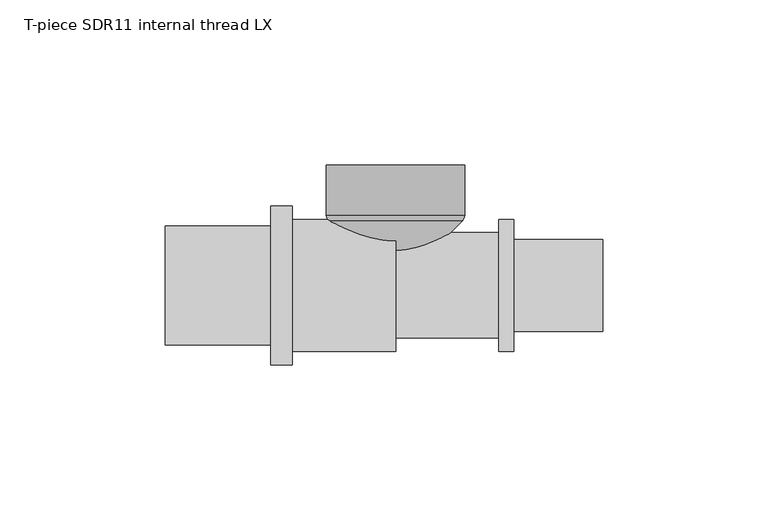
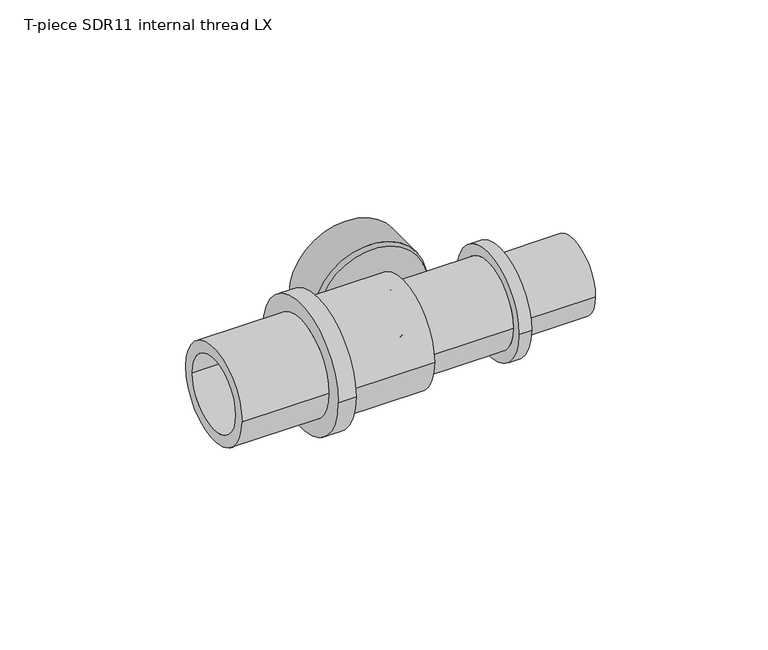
"""IFC4 building model written with IfcOpenShell, lengths in millimetres: pipe fitting geometry, T-piece SDR11 internal thread LX : T-piece LX SDR11 internal LX."""

from ifc_helpers import new_model, si_unit, point, frame, origin, place, context, project, spatial, polyline, circle_curve, ellipse_curve, trimmed, source, transform, mapped, element, save
from ifc_brep_helpers import plane_surface, cylinder_surface, revolved_surface, advanced_brep


def t_piece_sdr11_internal_thread_lx_1500bb06(model_context):
    return source(origin(), model_context, "Body", "AdvancedBrep", [
        advanced_brep(
        [(15.75, 22.35, 0.0), (-15.75, 22.35, 0.0), (-15.75, 36.5, 0.0), (15.75, 36.5, 0.0), (0.5, 7.1, 0.0), (-0.5, 7.1, 0.0), (20.2683856, 19.4437644, 0.0), (-20.2683856, 19.4437644, 0.0), (-7.9246212, 7.1, 0.0), (7.9246212, 7.1, 0.0), (21.0, 21.2100378, 0.0), (-21.0, 21.2100378, 0.0), (21.0, 36.5, 0.0), (-21.0, 36.5, 0.0)],
        [
            (0, 1, circle_curve(frame((0.0, 22.35, 0.0), z_axis=(0.0, -1.0, 0.0), x_axis=(-1.0, 0.0, 0.0)), 15.75)),
            (1, 2),
            (2, 3, circle_curve(frame((0.0, 36.5, 0.0), z_axis=(0.0, 1.0, 0.0), x_axis=(-1.0, 0.0, 0.0)), 15.75)),
            (3, 0),
            (4, 5, circle_curve(frame((0.0, 7.1, 0.0), z_axis=(0.0, -1.0, 0.0), x_axis=(-1.0, 0.0, 0.0)), 0.5)),
            (5, 1),
            (0, 4),
            (6, 7, circle_curve(frame((0.0, 19.4437644, 0.0), z_axis=(0.0, -1.0, 0.0), x_axis=(-1.0, 0.0, 0.0)), 20.2683856)),
            (7, 8),
            (8, 9, circle_curve(frame((0.0, 7.1, 0.0), z_axis=(0.0, 1.0, 0.0), x_axis=(-1.0, 0.0, 0.0)), 7.9246212)),
            (9, 6),
            (10, 11, circle_curve(frame((0.0, 21.2100378, 0.0), z_axis=(0.0, -1.0, 0.0), x_axis=(-1.0, 0.0, 0.0)), 21.0)),
            (11, 7, circle_curve(frame((-15.75, 22.35, 0.0), z_axis=(0.0, 0.0, 1.0), x_axis=(0.0, 1.0, 0.0)), 5.3723378)),
            (6, 10, circle_curve(frame((15.75, 22.35, 0.0), z_axis=(0.0, 0.0, 1.0), x_axis=(0.0, 1.0, 0.0)), 5.3723378)),
            (12, 13, circle_curve(frame((0.0, 36.5, 0.0), z_axis=(0.0, -1.0, 0.0), x_axis=(-1.0, 0.0, 0.0)), 21.0)),
            (13, 11),
            (10, 12),
            (12, 13, circle_curve(frame((0.0, 36.5, 0.0), z_axis=(0.0, 1.0, 0.0), x_axis=(1.0, 0.0, 0.0)), 21.0)),
            (2, 3, circle_curve(frame((0.0, 36.5, 0.0), z_axis=(0.0, -1.0, 0.0), x_axis=(1.0, 0.0, 0.0)), 15.75)),
            (1, 0, circle_curve(frame((0.0, 22.35, 0.0), z_axis=(0.0, -1.0, 0.0), x_axis=(1.0, 0.0, 0.0)), 15.75)),
            (5, 4, circle_curve(frame((0.0, 7.1, 0.0), z_axis=(0.0, -1.0, 0.0), x_axis=(1.0, 0.0, 0.0)), 0.5)),
            (8, 9, circle_curve(frame((0.0, 7.1, 0.0), z_axis=(0.0, -1.0, 0.0), x_axis=(1.0, 0.0, 0.0)), 7.9246212)),
            (7, 6, circle_curve(frame((0.0, 19.4437644, 0.0), z_axis=(0.0, -1.0, 0.0), x_axis=(1.0, 0.0, 0.0)), 20.2683856)),
            (11, 10, circle_curve(frame((0.0, 21.2100378, 0.0), z_axis=(0.0, -1.0, 0.0), x_axis=(1.0, 0.0, 0.0)), 21.0)),
        ],
        [
            revolved_surface(polyline([(-15.75, 36.5, 0.0), (-15.75, 22.35, 0.0)]), (0.0, 7.1, 0.0), (0.0, 1.0, 0.0)),
            revolved_surface(polyline([(-15.75, 22.35, 0.0), (-0.5, 7.1, 0.0)]), (0.0, 7.1, 0.0), (0.0, 1.0, 0.0)),
            revolved_surface(polyline([(-7.9246212, 7.1, 0.0), (-20.2683856, 19.4437644, 0.0)]), (0.0, 7.1, 0.0), (0.0, 1.0, 0.0)),
            revolved_surface(trimmed(ellipse_curve(frame((-15.75, 22.35, 0.0), z_axis=(0.0, 0.0, -1.0), x_axis=(0.0, 1.0, 0.0)), 5.3723378, 5.3723378), [point((-20.2683856, 19.4437644, 0.0))], [point((-21.0, 21.2100378, 0.0))], True, "CARTESIAN"), (0.0, 7.1, 0.0), (0.0, 1.0, 0.0)),
            cylinder_surface(frame((0.0, 7.1, 0.0), z_axis=(0.0, 1.0, 0.0), x_axis=(-1.0, 0.0, 0.0)), 21.0),
            plane_surface(frame((0.0, 36.5, 0.0), z_axis=(0.0, 1.0, 0.0), x_axis=(1.0, 0.0, 0.0))),
            revolved_surface(polyline([(15.75, 36.5, 0.0), (15.75, 22.35, 0.0)]), (0.0, 7.1, 0.0), (0.0, 1.0, 0.0)),
            revolved_surface(polyline([(15.75, 22.35, 0.0), (0.5, 7.1, 0.0)]), (0.0, 7.1, 0.0), (0.0, 1.0, 0.0)),
            plane_surface(frame((0.0, 7.1, 0.0), z_axis=(0.0, -1.0, 0.0), x_axis=(1.0, 0.0, 0.0))),
            revolved_surface(polyline([(7.9246212, 7.1, 0.0), (20.2683856, 19.4437644, 0.0)]), (0.0, 7.1, 0.0), (0.0, 1.0, 0.0)),
            revolved_surface(trimmed(ellipse_curve(frame((15.75, 22.35, 0.0), z_axis=(0.0, 0.0, 1.0), x_axis=(0.0, 1.0, 0.0)), 5.3723378, 5.3723378), [point((20.2683856, 19.4437644, 0.0))], [point((21.0, 21.2100378, 0.0))], True, "CARTESIAN"), (0.0, 7.1, 0.0), (0.0, 1.0, 0.0)),
            cylinder_surface(frame((0.0, 7.1, 0.0), z_axis=(0.0, 1.0, 0.0), x_axis=(1.0, 0.0, 0.0)), 21.0),
        ],
        [
            (0, [[1, 2, 3, 4]]),
            (1, [[5, 6, -1, 7]]),
            (2, [[8, 9, 10, 11]]),
            (3, [[12, 13, -8, 14]]),
            (4, [[15, 16, -12, 17]]),
            (5, [[18, -15], [19, -3]]),
            (6, [[20, -4, -19, -2]]),
            (7, [[21, -7, -20, -6]]),
            (8, [[22, -10], [-21, -5]]),
            (9, [[23, -11, -22, -9]]),
            (10, [[24, -14, -23, -13]]),
            (11, [[-18, -17, -24, -16]]),
        ],
    ),
        advanced_brep(
        [(35.8, 20.0, 0.0), (35.8, -20.0, 0.0), (31.3, -20.0, 0.0), (31.3, 20.0, 0.0), (62.8, 13.95, 0.0), (62.8, -13.95, 0.0), (35.8, -13.95, 0.0), (35.8, 13.95, 0.0), (0.0, 11.2, 0.0), (0.0, -11.2, 0.0), (62.8, -11.2, 0.0), (62.8, 11.2, 0.0), (31.3, 16.0, 0.0), (31.3, -16.0, 0.0), (0.0, -16.0, 0.0), (0.0, 16.0, 0.0)],
        [
            (0, 1, circle_curve(frame((35.8, 0.0, 0.0), z_axis=(-1.0, 0.0, 0.0), x_axis=(0.0, -1.0, 0.0)), 20.0)),
            (1, 2),
            (2, 3, circle_curve(frame((31.3, 0.0, 0.0), z_axis=(1.0, 0.0, 0.0), x_axis=(0.0, -1.0, 0.0)), 20.0)),
            (3, 0),
            (4, 5, circle_curve(frame((62.8, 0.0, 0.0), z_axis=(-1.0, 0.0, 0.0), x_axis=(0.0, -1.0, 0.0)), 13.95)),
            (5, 6),
            (6, 7, circle_curve(frame((35.8, 0.0, 0.0), z_axis=(1.0, 0.0, 0.0), x_axis=(0.0, -1.0, 0.0)), 13.95)),
            (7, 4),
            (8, 9, circle_curve(frame((0.0, 0.0, 0.0), z_axis=(-1.0, 0.0, 0.0), x_axis=(0.0, -1.0, 0.0)), 11.2)),
            (9, 10),
            (10, 11, circle_curve(frame((62.8, 0.0, 0.0), z_axis=(1.0, 0.0, 0.0), x_axis=(0.0, -1.0, 0.0)), 11.2)),
            (11, 8),
            (12, 13, circle_curve(frame((31.3, 0.0, 0.0), z_axis=(-1.0, 0.0, 0.0), x_axis=(0.0, -1.0, 0.0)), 16.0)),
            (13, 14),
            (14, 15, circle_curve(frame((0.0, 0.0, 0.0), z_axis=(1.0, 0.0, 0.0), x_axis=(0.0, -1.0, 0.0)), 16.0)),
            (15, 12),
            (1, 0, circle_curve(frame((35.8, 0.0, 0.0), z_axis=(-1.0, 0.0, 0.0), x_axis=(0.0, 1.0, 0.0)), 20.0)),
            (3, 2, circle_curve(frame((31.3, 0.0, 0.0), z_axis=(1.0, 0.0, 0.0), x_axis=(0.0, 1.0, 0.0)), 20.0)),
            (6, 7, circle_curve(frame((35.8, 0.0, 0.0), z_axis=(-1.0, 0.0, 0.0), x_axis=(0.0, 1.0, 0.0)), 13.95)),
            (5, 4, circle_curve(frame((62.8, 0.0, 0.0), z_axis=(-1.0, 0.0, 0.0), x_axis=(0.0, 1.0, 0.0)), 13.95)),
            (10, 11, circle_curve(frame((62.8, 0.0, 0.0), z_axis=(-1.0, 0.0, 0.0), x_axis=(0.0, 1.0, 0.0)), 11.2)),
            (9, 8, circle_curve(frame((0.0, 0.0, 0.0), z_axis=(-1.0, 0.0, 0.0), x_axis=(0.0, 1.0, 0.0)), 11.2)),
            (14, 15, circle_curve(frame((0.0, 0.0, 0.0), z_axis=(-1.0, 0.0, 0.0), x_axis=(0.0, 1.0, 0.0)), 16.0)),
            (13, 12, circle_curve(frame((31.3, 0.0, 0.0), z_axis=(-1.0, 0.0, 0.0), x_axis=(0.0, 1.0, 0.0)), 16.0)),
        ],
        [
            cylinder_surface(frame((0.0, 0.0, 0.0), z_axis=(1.0, 0.0, 0.0), x_axis=(0.0, -1.0, 0.0)), 20.0),
            cylinder_surface(frame((0.0, 0.0, 0.0), z_axis=(1.0, 0.0, 0.0), x_axis=(0.0, -1.0, 0.0)), 13.95),
            revolved_surface(polyline([(62.8, -11.2, 0.0), (0.0, -11.2, 0.0)]), (0.0, 0.0, 0.0), (1.0, 0.0, 0.0)),
            cylinder_surface(frame((0.0, 0.0, 0.0), z_axis=(1.0, 0.0, 0.0), x_axis=(0.0, -1.0, 0.0)), 16.0),
            cylinder_surface(frame((0.0, 0.0, 0.0), z_axis=(1.0, 0.0, 0.0), x_axis=(0.0, 1.0, 0.0)), 20.0),
            plane_surface(frame((35.8, 0.0, 0.0), z_axis=(1.0, 0.0, 0.0), x_axis=(0.0, 1.0, 0.0))),
            cylinder_surface(frame((0.0, 0.0, 0.0), z_axis=(1.0, 0.0, 0.0), x_axis=(0.0, 1.0, 0.0)), 13.95),
            plane_surface(frame((62.8, 0.0, 0.0), z_axis=(1.0, 0.0, 0.0), x_axis=(0.0, 1.0, 0.0))),
            revolved_surface(polyline([(62.8, 11.2, 0.0), (0.0, 11.2, 0.0)]), (0.0, 0.0, 0.0), (1.0, 0.0, 0.0)),
            plane_surface(frame((0.0, 0.0, 0.0), z_axis=(-1.0, 0.0, 0.0), x_axis=(0.0, 1.0, 0.0))),
            cylinder_surface(frame((0.0, 0.0, 0.0), z_axis=(1.0, 0.0, 0.0), x_axis=(0.0, 1.0, 0.0)), 16.0),
            plane_surface(frame((31.3, 0.0, 0.0), z_axis=(-1.0, 0.0, 0.0), x_axis=(0.0, 1.0, 0.0))),
        ],
        [
            (0, [[1, 2, 3, 4]]),
            (1, [[5, 6, 7, 8]]),
            (2, [[9, 10, 11, 12]]),
            (3, [[13, 14, 15, 16]]),
            (4, [[17, -4, 18, -2]]),
            (5, [[-17, -1], [19, -7]]),
            (6, [[20, -8, -19, -6]]),
            (7, [[-20, -5], [21, -11]]),
            (8, [[22, -12, -21, -10]]),
            (9, [[23, -15], [-22, -9]]),
            (10, [[24, -16, -23, -14]]),
            (11, [[-18, -3], [-24, -13]]),
        ],
    ),
        advanced_brep(
        [(0.0, 20.0, 0.0), (0.0, -20.0, 0.0), (-31.3, -20.0, 0.0), (-31.3, 20.0, 0.0), (-69.8, 13.75, 0.0), (-69.8, -13.75, 0.0), (0.0, -13.75, 0.0), (0.0, 13.75, 0.0), (-37.8, 18.0, 0.0), (-37.8, -18.0, 0.0), (-69.8, -18.0, 0.0), (-69.8, 18.0, 0.0), (-31.3, 24.1, 0.0), (-31.3, -24.1, 0.0), (-37.8, -24.1, 0.0), (-37.8, 24.1, 0.0)],
        [
            (0, 1, circle_curve(frame((0.0, 0.0, 0.0), z_axis=(-1.0, 0.0, 0.0), x_axis=(0.0, -1.0, 0.0)), 20.0)),
            (1, 2),
            (2, 3, circle_curve(frame((-31.3, 0.0, 0.0), z_axis=(1.0, 0.0, 0.0), x_axis=(0.0, -1.0, 0.0)), 20.0)),
            (3, 0),
            (4, 5, circle_curve(frame((-69.8, 0.0, 0.0), z_axis=(-1.0, 0.0, 0.0), x_axis=(0.0, -1.0, 0.0)), 13.75)),
            (5, 6),
            (6, 7, circle_curve(frame((0.0, 0.0, 0.0), z_axis=(1.0, 0.0, 0.0), x_axis=(0.0, -1.0, 0.0)), 13.75)),
            (7, 4),
            (8, 9, circle_curve(frame((-37.8, 0.0, 0.0), z_axis=(-1.0, 0.0, 0.0), x_axis=(0.0, -1.0, 0.0)), 18.0)),
            (9, 10),
            (10, 11, circle_curve(frame((-69.8, 0.0, 0.0), z_axis=(1.0, 0.0, 0.0), x_axis=(0.0, -1.0, 0.0)), 18.0)),
            (11, 8),
            (12, 13, circle_curve(frame((-31.3, 0.0, 0.0), z_axis=(-1.0, 0.0, 0.0), x_axis=(0.0, -1.0, 0.0)), 24.1)),
            (13, 14),
            (14, 15, circle_curve(frame((-37.8, 0.0, 0.0), z_axis=(1.0, 0.0, 0.0), x_axis=(0.0, -1.0, 0.0)), 24.1)),
            (15, 12),
            (12, 13, circle_curve(frame((-31.3, 0.0, 0.0), z_axis=(1.0, 0.0, 0.0), x_axis=(0.0, 1.0, 0.0)), 24.1)),
            (2, 3, circle_curve(frame((-31.3, 0.0, 0.0), z_axis=(-1.0, 0.0, 0.0), x_axis=(0.0, 1.0, 0.0)), 20.0)),
            (1, 0, circle_curve(frame((0.0, 0.0, 0.0), z_axis=(-1.0, 0.0, 0.0), x_axis=(0.0, 1.0, 0.0)), 20.0)),
            (6, 7, circle_curve(frame((0.0, 0.0, 0.0), z_axis=(-1.0, 0.0, 0.0), x_axis=(0.0, 1.0, 0.0)), 13.75)),
            (5, 4, circle_curve(frame((-69.8, 0.0, 0.0), z_axis=(-1.0, 0.0, 0.0), x_axis=(0.0, 1.0, 0.0)), 13.75)),
            (10, 11, circle_curve(frame((-69.8, 0.0, 0.0), z_axis=(-1.0, 0.0, 0.0), x_axis=(0.0, 1.0, 0.0)), 18.0)),
            (9, 8, circle_curve(frame((-37.8, 0.0, 0.0), z_axis=(-1.0, 0.0, 0.0), x_axis=(0.0, 1.0, 0.0)), 18.0)),
            (14, 15, circle_curve(frame((-37.8, 0.0, 0.0), z_axis=(-1.0, 0.0, 0.0), x_axis=(0.0, 1.0, 0.0)), 24.1)),
        ],
        [
            cylinder_surface(frame((0.0, 0.0, 0.0), z_axis=(1.0, 0.0, 0.0), x_axis=(0.0, -1.0, 0.0)), 20.0),
            revolved_surface(polyline([(0.0, -13.75, 0.0), (-69.8, -13.75, 0.0)]), (0.0, 0.0, 0.0), (1.0, 0.0, 0.0)),
            cylinder_surface(frame((0.0, 0.0, 0.0), z_axis=(1.0, 0.0, 0.0), x_axis=(0.0, -1.0, 0.0)), 18.0),
            cylinder_surface(frame((0.0, 0.0, 0.0), z_axis=(1.0, 0.0, 0.0), x_axis=(0.0, -1.0, 0.0)), 24.1),
            plane_surface(frame((-31.3, 0.0, 0.0), z_axis=(1.0, 0.0, 0.0), x_axis=(0.0, 1.0, 0.0))),
            cylinder_surface(frame((0.0, 0.0, 0.0), z_axis=(1.0, 0.0, 0.0), x_axis=(0.0, 1.0, 0.0)), 20.0),
            plane_surface(frame((0.0, 0.0, 0.0), z_axis=(1.0, 0.0, 0.0), x_axis=(0.0, 1.0, 0.0))),
            revolved_surface(polyline([(0.0, 13.75, 0.0), (-69.8, 13.75, 0.0)]), (0.0, 0.0, 0.0), (1.0, 0.0, 0.0)),
            plane_surface(frame((-69.8, 0.0, 0.0), z_axis=(-1.0, 0.0, 0.0), x_axis=(0.0, 1.0, 0.0))),
            cylinder_surface(frame((0.0, 0.0, 0.0), z_axis=(1.0, 0.0, 0.0), x_axis=(0.0, 1.0, 0.0)), 18.0),
            plane_surface(frame((-37.8, 0.0, 0.0), z_axis=(-1.0, 0.0, 0.0), x_axis=(0.0, 1.0, 0.0))),
            cylinder_surface(frame((0.0, 0.0, 0.0), z_axis=(1.0, 0.0, 0.0), x_axis=(0.0, 1.0, 0.0)), 24.1),
        ],
        [
            (0, [[1, 2, 3, 4]]),
            (1, [[5, 6, 7, 8]]),
            (2, [[9, 10, 11, 12]]),
            (3, [[13, 14, 15, 16]]),
            (4, [[17, -13], [18, -3]]),
            (5, [[19, -4, -18, -2]]),
            (6, [[-19, -1], [20, -7]]),
            (7, [[21, -8, -20, -6]]),
            (8, [[22, -11], [-21, -5]]),
            (9, [[23, -12, -22, -10]]),
            (10, [[24, -15], [-23, -9]]),
            (11, [[-17, -16, -24, -14]]),
        ],
    ),
    ])


if __name__ == "__main__":
    model = new_model("IFC4")
    model_context = context("Model", 3, world=origin())
    ifc_project = project(units=[si_unit("LENGTHUNIT", "METRE", prefix="MILLI")], contexts=[model_context])
    site = spatial("IfcSite", under=ifc_project)
    building = spatial("IfcBuilding", under=site)
    placement = place(None, origin())
    t_piece_sdr11_internal_thread_lx_shape = t_piece_sdr11_internal_thread_lx_1500bb06(model_context)
    element("IfcPipeFitting", 1, ObjectType="T-piece SDR11 internal thread LX : T-piece LX SDR11 internal LX", at=placement, inside=building, context=model_context, shape_type="MappedRepresentation", body=[
        mapped(t_piece_sdr11_internal_thread_lx_shape, transform((0.0, 0.0, 0.0), x_axis=(1.0, 0.0, 0.0), y_axis=(0.0, 1.0, 0.0), z_axis=(0.0, 0.0, 1.0))),
    ])
    save(model, "model.ifc")
